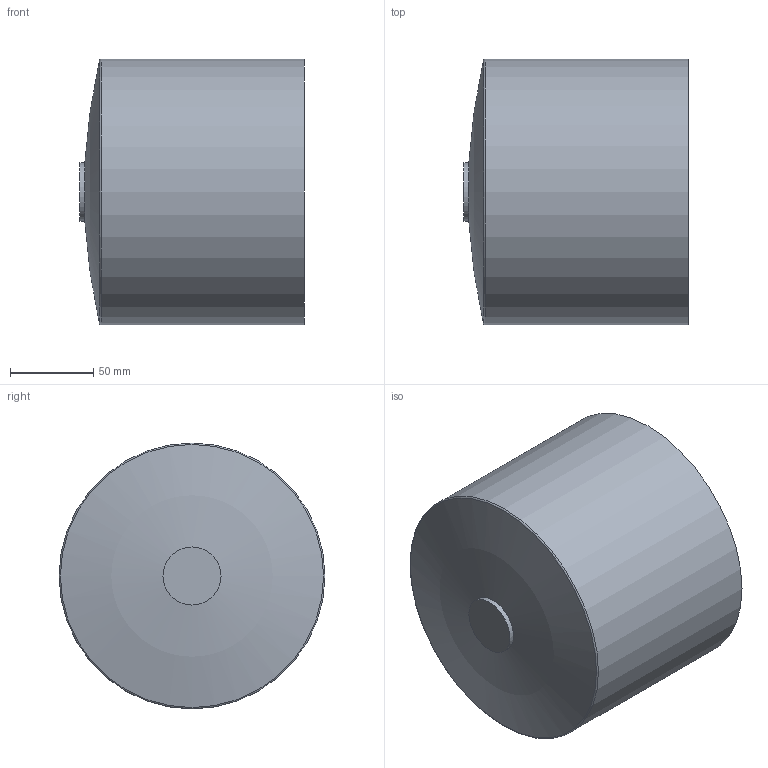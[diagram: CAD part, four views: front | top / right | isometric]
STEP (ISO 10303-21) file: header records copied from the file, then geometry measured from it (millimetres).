
FILE_DESCRIPTION(/* description */ ('Unknown'),/* implementation_level */ '2;1');
FILE_NAME(/* name */ 'CAP160G',/* time_stamp */ '2022-04-02T10:21:36+02:00',/* author */ ('Unknown'),/* organization */ ('Unknown'),/* preprocessor_version */ 'ST-DEVELOPER v18.1',/* originating_system */ 'Solid Edge',/* authorisation */ 'Unknown');
FILE_SCHEMA (('AUTOMOTIVE_DESIGN {1 0 10303 214 3 1 1}'));
Length unit declared in the file: millimetre
Products named in the file (1): CAP160G
Bounding box: 135 x 160 x 160 mm (x, y, z)
Volume: 1416627.6 mm3; surface area: 138860.8 mm2
Topology: 1 solids, 1 shells, 12 faces, 20 edges, 11 vertices
Faces by surface type: cylinder 4, torus 4, plane 3, cone 1
Full cylindrical faces by diameter (mm): 35 x1, 116.2 x1, 124.077 x1, 160 x1
Entity records: 264 total; most frequent: DIRECTION 48, CARTESIAN_POINT 35, AXIS2_PLACEMENT_3D 24, ORIENTED_EDGE 22, EDGE_LOOP 22, FACE_BOUND 22, ADVANCED_FACE 12, EDGE_CURVE 11
